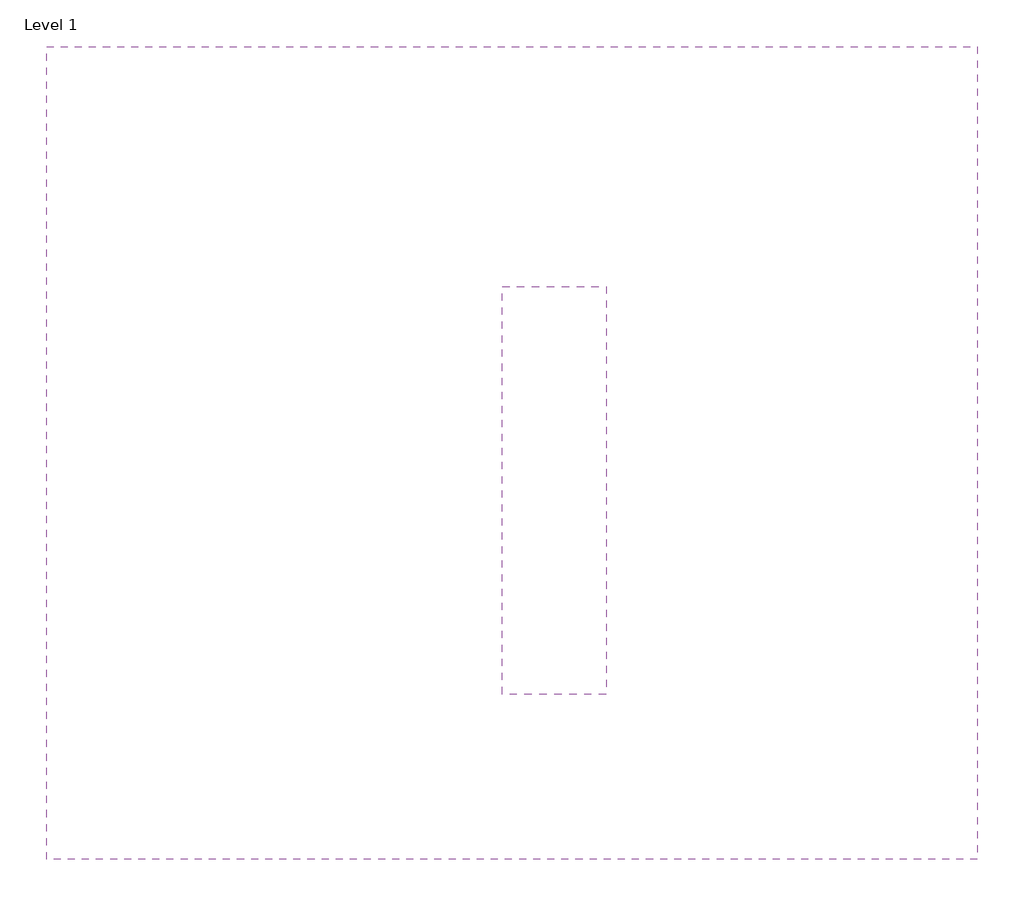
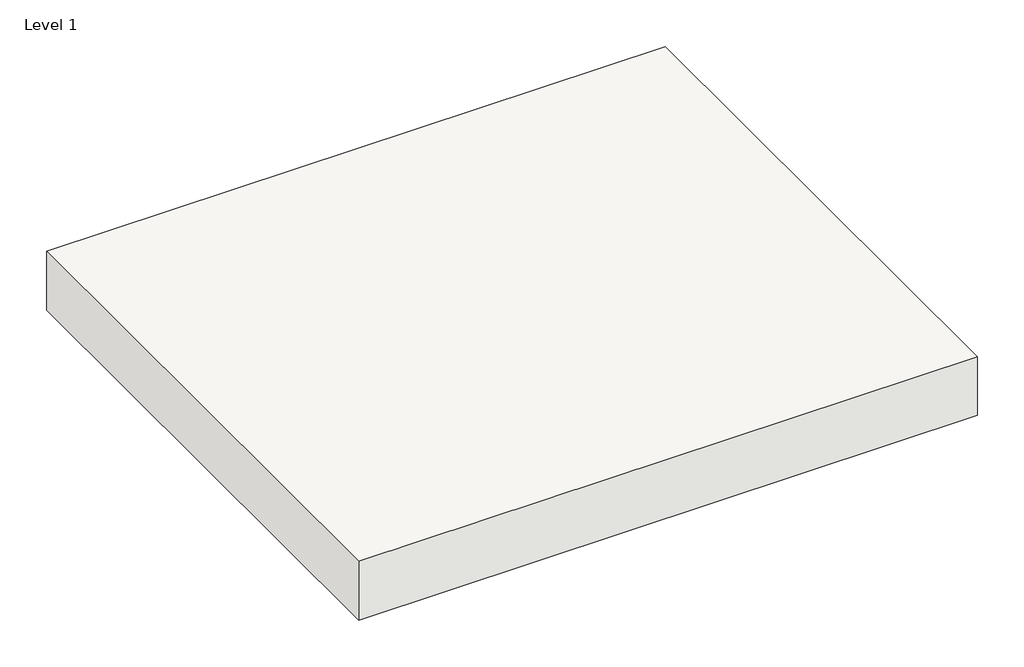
# One storey: 1 light fixture, 1 slab.
"""IFC4 building model written with IfcOpenShell, lengths in millimetres."""

from ifc_helpers import new_model, si_unit, frame, origin, place, context, project, spatial, polyline, outline, extrude, transform, mapped, element, save
from components import dw_2_dw_18w_67269a34

model = new_model("IFC4")

# Units and contexts
model_context = context("Model", 3, world=origin())
ifc_project = project(units=[si_unit("LENGTHUNIT", "METRE", prefix="MILLI")], contexts=[model_context])

# Site, building, storey
site = spatial("IfcSite", under=ifc_project)
building = spatial("IfcBuilding", under=site)
storey = spatial("IfcBuildingStorey", under=building, Name="Level 1", Elevation=0.0)

# Light fixture
placement = place(None, origin())
dw_2_dw_18w_shape = dw_2_dw_18w_67269a34(model_context)
element("IfcLightFixture", 1, ObjectType="DW 2 : DW_18W", at=placement, inside=storey, context=model_context, shape_type="MappedRepresentation", body=[
    mapped(dw_2_dw_18w_shape, transform((-1561.5244085, 2385.4223006, 2507.0), x_axis=(-1.0, 0.0, 0.0), y_axis=(0.0, 1.0, 0.0), z_axis=(0.0, 0.0, -1.0))),
])

# Slab
element("IfcSlab", 2, ObjectType="Generic 150mm", at=placement, inside=storey, context=model_context, shape_type="SweptSolid", body=[
    extrude(outline(polyline([(-1329.1447554, 1790.8443287), (-2829.1447554, 1790.8443287), (-2829.1447554, 3100.8443287), (-1329.1447554, 3100.8443287), (-1329.1447554, 1790.8443287)])), frame((0.0, 0.0, 2507.0), z_axis=(0.0, 0.0, 1.0), x_axis=(1.0, 0.0, 0.0)), (0.0, 0.0, 1.0), 150.0),
])

save(model, "model.ifc")
